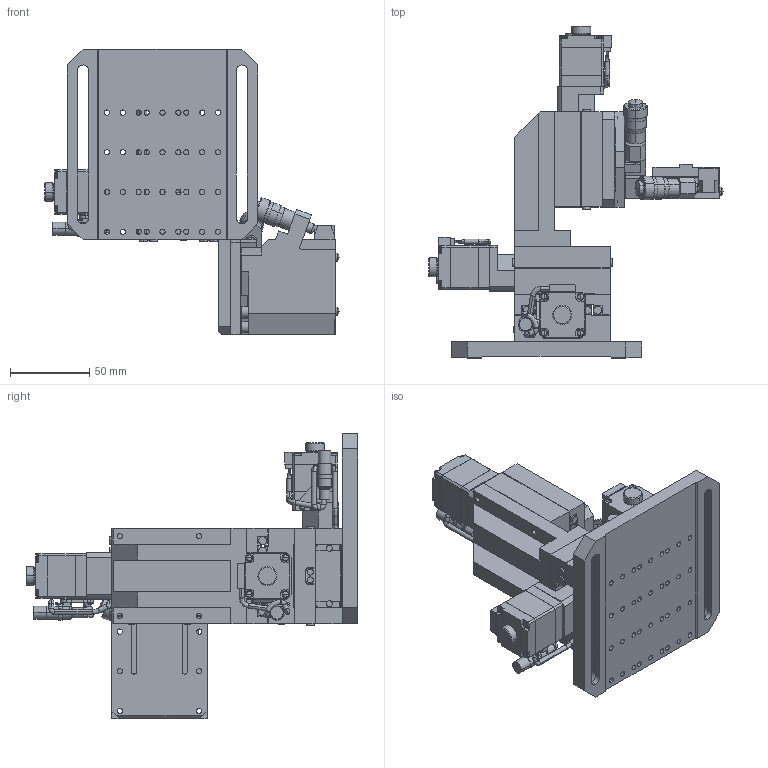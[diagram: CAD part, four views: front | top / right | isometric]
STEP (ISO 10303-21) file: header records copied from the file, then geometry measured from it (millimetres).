
FILE_DESCRIPTION (( 'STEP AP214' ), '1' );
FILE_NAME ('ES3001WB-L.STEP', '2017-03-10T08:19:27', ( '' ), ( '' ), 'SwSTEP 2.0', 'SolidWorks 2017', '' );
FILE_SCHEMA (( 'AUTOMOTIVE_DESIGN' ));
Length unit declared in the file: millimetre
Products named in the file (19): Copy of B51-60LN-2^Copy of B51-60LN_000-OST-ES3001WB-L; Copy of B51-60LN^000-OST-ES3001WB-L; Copy of B51-60LN-1^Copy of B51-60LN_000-OST-ES3001WB-L; Copy of E02-2^000-OST-ES3001WB-L; Copy (3) of KXC06020-G^000-OST-ES3001WB-L; Copy of KXC06020-G-2^Copy (3) of KXC06020-G_000-OST-ES3001WB-L; Copy of KXC06020-G-1^Copy (3) of KXC06020-G_000-OST-ES3001WB-L; Copy of A47-112^000-OST-ES3001WB-L; Copy (2) of KXC06020-G^000-OST-ES3001WB-L; Copy of KXC06020-G-2^Copy (2) of KXC06020-G_000-OST-ES3001WB-L; Copy of KXC06020-G-1^Copy (2) of KXC06020-G_000-OST-ES3001WB-L; Copy of KXC06020-G^000-OST-ES3001WB-L; Copy of KXC06020-G-2^Copy of KXC06020-G_000-OST-ES3001WB-L; Copy of KXC06020-G-1^Copy of KXC06020-G_000-OST-ES3001WB-L; Copy of A24-1^000-OST-ES3001WB-L; Copy of B51-60LN-3^Copy of B51-60LN_000-OST-ES3001WB-L; ES3001WB-L; Copy of B51-60LN-5^Copy of B51-60LN_000-OST-ES3001WB-L; Copy of B51-60LN-4^Copy of B51-60LN_000-OST-ES3001WB-L
Assembly tree (18 placements, depth 3):
  ES3001WB-L
    Copy of A24-1^000-OST-ES3001WB-L
    Copy of KXC06020-G^000-OST-ES3001WB-L
      Copy of KXC06020-G-1^Copy of KXC06020-G_000-OST-ES3001WB-L
      Copy of KXC06020-G-2^Copy of KXC06020-G_000-OST-ES3001WB-L
    Copy (2) of KXC06020-G^000-OST-ES3001WB-L
      Copy of KXC06020-G-1^Copy (2) of KXC06020-G_000-OST-ES3001WB-L
      Copy of KXC06020-G-2^Copy (2) of KXC06020-G_000-OST-ES3001WB-L
    Copy of A47-112^000-OST-ES3001WB-L
    Copy (3) of KXC06020-G^000-OST-ES3001WB-L
      Copy of KXC06020-G-1^Copy (3) of KXC06020-G_000-OST-ES3001WB-L
      Copy of KXC06020-G-2^Copy (3) of KXC06020-G_000-OST-ES3001WB-L
    Copy of E02-2^000-OST-ES3001WB-L
    Copy of B51-60LN^000-OST-ES3001WB-L
      Copy of B51-60LN-1^Copy of B51-60LN_000-OST-ES3001WB-L
      Copy of B51-60LN-2^Copy of B51-60LN_000-OST-ES3001WB-L
      Copy of B51-60LN-4^Copy of B51-60LN_000-OST-ES3001WB-L
      Copy of B51-60LN-5^Copy of B51-60LN_000-OST-ES3001WB-L
      Copy of B51-60LN-3^Copy of B51-60LN_000-OST-ES3001WB-L
Bounding box: 185.15 x 209 x 180 mm (x, y, z)
Volume: 727632 mm3; surface area: 244635.9 mm2
Topology: 14 solids, 15 shells, 2136 faces, 5832 edges, 3747 vertices
Faces by surface type: plane 1160, cylinder 702, bspline 160, cone 100, sphere 14
Entity records: 72130 total; most frequent: CARTESIAN_POINT 16501, ORIENTED_EDGE 11530, DIRECTION 11505, EDGE_CURVE 5765, AXIS2_PLACEMENT_3D 3899, VERTEX_POINT 3741, VECTOR 3707, LINE 3707
